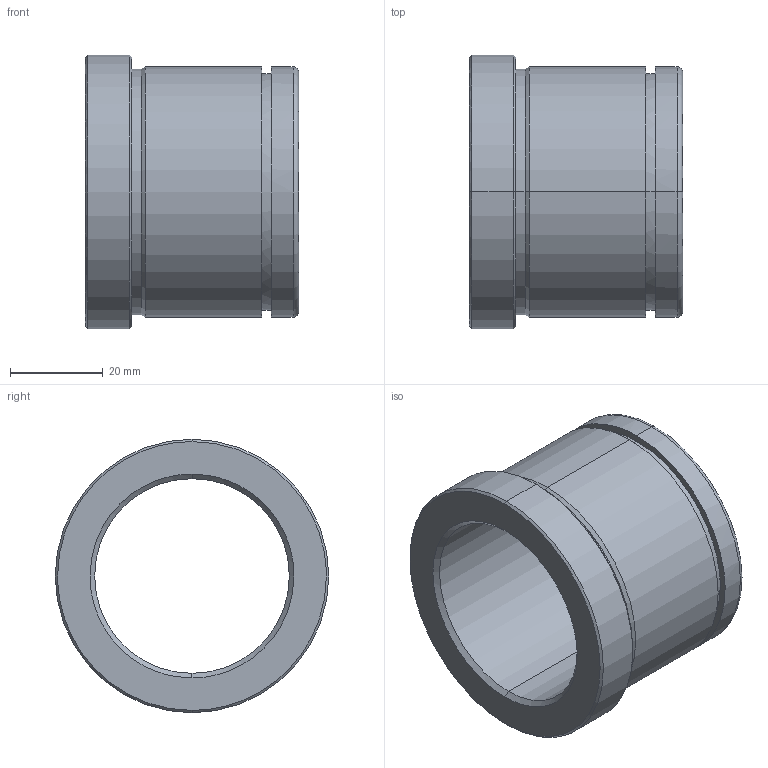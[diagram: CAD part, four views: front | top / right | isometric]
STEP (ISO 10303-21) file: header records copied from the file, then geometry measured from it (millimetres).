
FILE_DESCRIPTION(('CATIA V5 STEP Exchange'),'2;1');
FILE_NAME('C:\Users\Utente\Desktop\IO LAVORO\3D X SITO CF\X SITO\PLASTICA\553\553-42X46.stp','2021-06-08T17:56:35+00:00',('none'),('none'),'CATIA Version 5 Release 20 GA (IN-10)','CATIA V5 STEP AP203','none');
FILE_SCHEMA(('CONFIG_CONTROL_DESIGN'));
Length unit declared in the file: millimetre
Products named in the file (1): 553-42X46
Bounding box: 46 x 59 x 59 mm (x, y, z)
Volume: 44974 mm3; surface area: 16888.8 mm2
Topology: 1 solids, 1 shells, 29 faces, 92 edges, 68 vertices
Faces by surface type: cylinder 12, cone 8, plane 5, torus 4
Entity records: 1222 total; most frequent: CARTESIAN_POINT 368, ORIENTED_EDGE 184, DIRECTION 136, EDGE_CURVE 92, AXIS2_PLACEMENT_3D 88, VERTEX_POINT 68, CIRCLE 58, EDGE_LOOP 34
